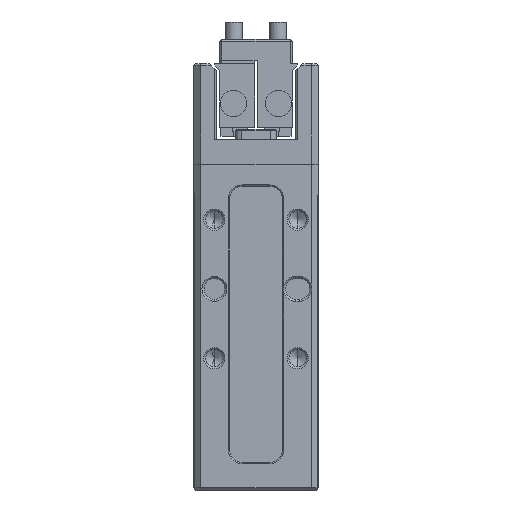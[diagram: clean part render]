
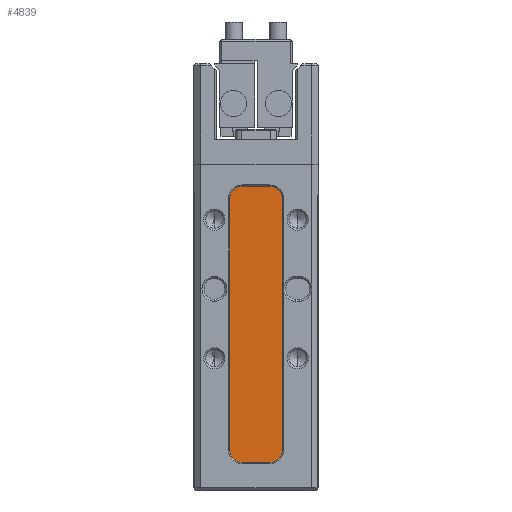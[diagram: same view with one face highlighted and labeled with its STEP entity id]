
A CAD part, front view. The second image highlights one B-rep face of the part: STEP entity #4839.
In plain terms, the highlighted planar face has unit normal (0, -1, 0).
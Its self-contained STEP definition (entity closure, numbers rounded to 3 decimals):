
#349 = ORIENTED_EDGE ( 'NONE', *, *, #9648, .T. ) ;
#2113 = ORIENTED_EDGE ( 'NONE', *, *, #22176, .T. ) ;
#3073 = CARTESIAN_POINT ( 'NONE',  ( 20.394, 7.736, 20.663 ) ) ;
#3584 = DIRECTION ( 'NONE',  ( 0., -1., 0. ) ) ;
#4539 = ORIENTED_EDGE ( 'NONE', *, *, #30855, .T. ) ;
#4839 = ADVANCED_FACE ( 'NONE', ( #47919 ), #48181, .F. ) ;
#5621 = VERTEX_POINT ( 'NONE', #38265 ) ;
#5917 = DIRECTION ( 'NONE',  ( 0., -1., 0. ) ) ;
#6035 = AXIS2_PLACEMENT_3D ( 'NONE', #30652, #13210, #22405 ) ;
#6926 = LINE ( 'NONE', #7481, #25400 ) ;
#7163 = LINE ( 'NONE', #32169, #42093 ) ;
#7481 = CARTESIAN_POINT ( 'NONE',  ( 20.394, 7.736, 33.863 ) ) ;
#9370 = ORIENTED_EDGE ( 'NONE', *, *, #45127, .T. ) ;
#9648 = EDGE_CURVE ( 'NONE', #27464, #50241, #16336, .T. ) ;
#10508 = VERTEX_POINT ( 'NONE', #3073 ) ;
#11009 = EDGE_CURVE ( 'NONE', #10508, #27464, #6926, .T. ) ;
#11656 = DIRECTION ( 'NONE',  ( 1., 0., 0. ) ) ;
#13210 = DIRECTION ( 'NONE',  ( 0., -1., 0. ) ) ;
#14285 = CIRCLE ( 'NONE', #21454, 1.8 ) ;
#15308 = CARTESIAN_POINT ( 'NONE',  ( 18.594, 7.736, 58.663 ) ) ;
#16336 = CIRCLE ( 'NONE', #19925, 1.8 ) ;
#16481 = DIRECTION ( 'NONE',  ( 0., 0., 1. ) ) ;
#19524 = CIRCLE ( 'NONE', #6035, 1.8 ) ;
#19925 = AXIS2_PLACEMENT_3D ( 'NONE', #24870, #3584, #16481 ) ;
#21357 = ORIENTED_EDGE ( 'NONE', *, *, #52846, .T. ) ;
#21454 = AXIS2_PLACEMENT_3D ( 'NONE', #30438, #5917, #52465 ) ;
#22176 = EDGE_CURVE ( 'NONE', #50241, #50932, #49239, .T. ) ;
#22405 = DIRECTION ( 'NONE',  ( 0., 0., 1. ) ) ;
#24603 = DIRECTION ( 'NONE',  ( 0., 1., 0. ) ) ;
#24870 = CARTESIAN_POINT ( 'NONE',  ( 18.594, 7.736, 56.863 ) ) ;
#25400 = VECTOR ( 'NONE', #41748, 1000. ) ;
#27464 = VERTEX_POINT ( 'NONE', #29534 ) ;
#28979 = DIRECTION ( 'NONE',  ( 0., 0., 1. ) ) ;
#29004 = ORIENTED_EDGE ( 'NONE', *, *, #11009, .T. ) ;
#29412 = CARTESIAN_POINT ( 'NONE',  ( 12.794, 7.736, 20.663 ) ) ;
#29534 = CARTESIAN_POINT ( 'NONE',  ( 20.394, 7.736, 56.863 ) ) ;
#30143 = VECTOR ( 'NONE', #39473, 1000. ) ;
#30228 = VERTEX_POINT ( 'NONE', #48209 ) ;
#30438 = CARTESIAN_POINT ( 'NONE',  ( 14.594, 7.736, 56.863 ) ) ;
#30652 = CARTESIAN_POINT ( 'NONE',  ( 18.594, 7.736, 20.663 ) ) ;
#30855 = EDGE_CURVE ( 'NONE', #30228, #10508, #19524, .T. ) ;
#32169 = CARTESIAN_POINT ( 'NONE',  ( 14.594, 7.736, 18.863 ) ) ;
#33315 = CARTESIAN_POINT ( 'NONE',  ( 12.794, 7.736, 56.863 ) ) ;
#34008 = DIRECTION ( 'NONE',  ( 0., -1., 0. ) ) ;
#35315 = EDGE_CURVE ( 'NONE', #50805, #49776, #45035, .T. ) ;
#36333 = CARTESIAN_POINT ( 'NONE',  ( 14.594, 7.736, 58.663 ) ) ;
#37078 = ORIENTED_EDGE ( 'NONE', *, *, #53726, .T. ) ;
#38265 = CARTESIAN_POINT ( 'NONE',  ( 14.594, 7.736, 18.863 ) ) ;
#38601 = CIRCLE ( 'NONE', #53826, 1.8 ) ;
#39473 = DIRECTION ( 'NONE',  ( -1., 0., 0. ) ) ;
#41184 = AXIS2_PLACEMENT_3D ( 'NONE', #49551, #24603, #45369 ) ;
#41736 = DIRECTION ( 'NONE',  ( 0., 0., -1. ) ) ;
#41748 = DIRECTION ( 'NONE',  ( 0., 0., 1. ) ) ;
#42093 = VECTOR ( 'NONE', #11656, 1000. ) ;
#42247 = EDGE_LOOP ( 'NONE', ( #47124, #9370, #21357, #4539, #29004, #349, #2113, #37078 ) ) ;
#42675 = CARTESIAN_POINT ( 'NONE',  ( 14.594, 7.736, 20.663 ) ) ;
#43964 = CARTESIAN_POINT ( 'NONE',  ( 14.594, 7.736, 58.663 ) ) ;
#45035 = LINE ( 'NONE', #50070, #46574 ) ;
#45127 = EDGE_CURVE ( 'NONE', #49776, #5621, #38601, .T. ) ;
#45369 = DIRECTION ( 'NONE',  ( 0., 0., -1. ) ) ;
#46574 = VECTOR ( 'NONE', #41736, 1000. ) ;
#47124 = ORIENTED_EDGE ( 'NONE', *, *, #35315, .T. ) ;
#47919 = FACE_OUTER_BOUND ( 'NONE', #42247, .T. ) ;
#48181 = PLANE ( 'NONE',  #41184 ) ;
#48209 = CARTESIAN_POINT ( 'NONE',  ( 18.594, 7.736, 18.863 ) ) ;
#49239 = LINE ( 'NONE', #43964, #30143 ) ;
#49551 = CARTESIAN_POINT ( 'NONE',  ( 14.594, 7.736, 33.863 ) ) ;
#49776 = VERTEX_POINT ( 'NONE', #29412 ) ;
#50070 = CARTESIAN_POINT ( 'NONE',  ( 12.794, 7.736, 33.863 ) ) ;
#50241 = VERTEX_POINT ( 'NONE', #15308 ) ;
#50805 = VERTEX_POINT ( 'NONE', #33315 ) ;
#50932 = VERTEX_POINT ( 'NONE', #36333 ) ;
#52465 = DIRECTION ( 'NONE',  ( 0., 0., 1. ) ) ;
#52846 = EDGE_CURVE ( 'NONE', #5621, #30228, #7163, .T. ) ;
#53726 = EDGE_CURVE ( 'NONE', #50932, #50805, #14285, .T. ) ;
#53826 = AXIS2_PLACEMENT_3D ( 'NONE', #42675, #34008, #28979 ) ;
